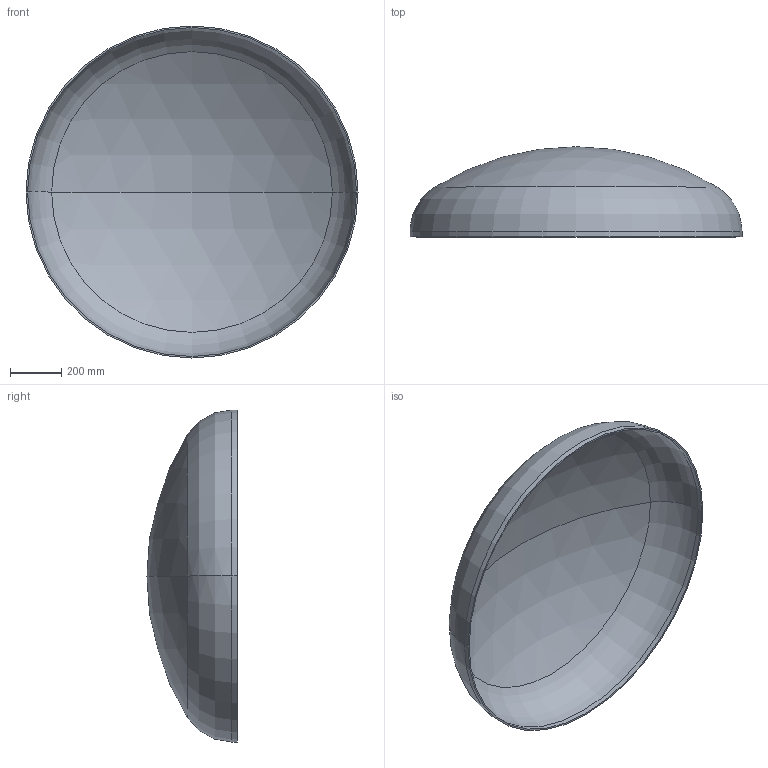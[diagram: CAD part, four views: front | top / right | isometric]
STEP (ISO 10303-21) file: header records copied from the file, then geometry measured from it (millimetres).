
FILE_DESCRIPTION (( 'STEP AP203' ), '1' );
FILE_NAME ('DIN 28013 Korbbogenform_-_Boden DIN 28013 - 1300 x 20 - I - s=6.step', '2016-07-01T09:41:31', ( '' ), ( '' ), 'SwSTEP 2.0', 'SolidWorks 2013', '' );
FILE_SCHEMA (( 'CONFIG_CONTROL_DESIGN' ));
Length unit declared in the file: millimetre
Products named in the file (1): DIN 28013 Korbbogenform_-_Boden DIN 28013 - 1300 x 20 - I - s=6
Bounding box: 1300 x 352.93 x 1300 mm (x, y, z)
Volume: 11448987.5 mm3; surface area: 3840794.4 mm2
Topology: 1 solids, 1 shells, 13 faces, 24 edges, 14 vertices
Faces by surface type: torus 4, cylinder 4, sphere 4, plane 1
Entity records: 407 total; most frequent: DIRECTION 72, CARTESIAN_POINT 52, ORIENTED_EDGE 48, AXIS2_PLACEMENT_3D 34, EDGE_CURVE 24, CIRCLE 20, EDGE_LOOP 14, VERTEX_POINT 14
